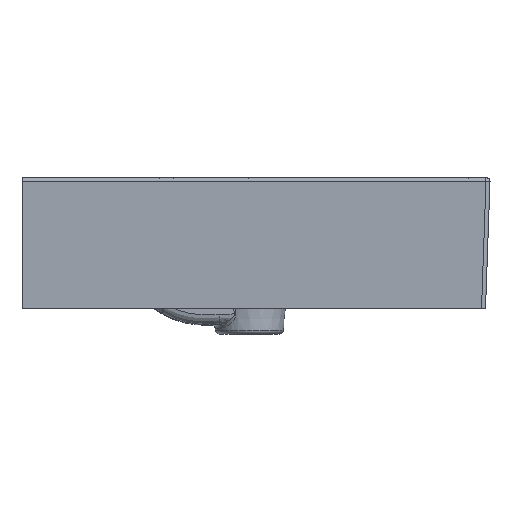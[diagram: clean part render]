
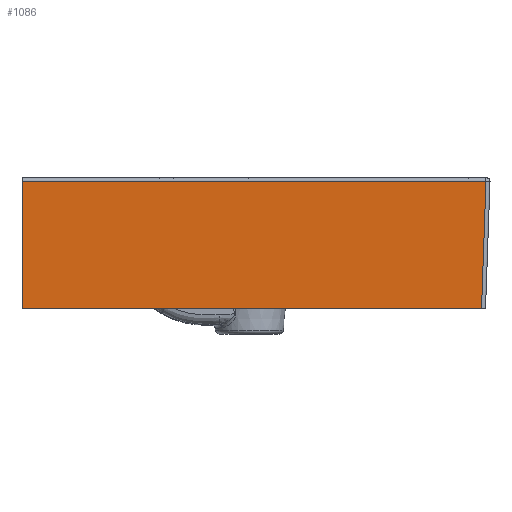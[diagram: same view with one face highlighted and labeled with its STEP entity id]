
A CAD part, left-side view. The second image highlights one B-rep face of the part: STEP entity #1086.
In plain terms, the highlighted planar face has unit normal (-1, 0, -0.026).
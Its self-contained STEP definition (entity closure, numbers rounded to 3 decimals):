
#124=PLANE('',#6542);
#544=LINE('',#45500,#793);
#554=LINE('',#47953,#804);
#583=LINE('',#49000,#833);
#584=LINE('',#49002,#834);
#585=LINE('',#49004,#835);
#586=LINE('',#49005,#836);
#793=VECTOR('',#7321,1.);
#804=VECTOR('',#7360,1.);
#833=VECTOR('',#7485,1.);
#834=VECTOR('',#7486,1.);
#835=VECTOR('',#7487,1.);
#836=VECTOR('',#7488,1.);
#1086=ADVANCED_FACE('',(#1583),#124,.T.);
#1583=FACE_OUTER_BOUND('',#1981,.T.);
#1981=EDGE_LOOP('',(#3395,#3396,#3397,#3398,#3399,#3400));
#3395=ORIENTED_EDGE('',*,*,#5543,.T.);
#3396=ORIENTED_EDGE('',*,*,#5611,.T.);
#3397=ORIENTED_EDGE('',*,*,#5612,.F.);
#3398=ORIENTED_EDGE('',*,*,#5613,.F.);
#3399=ORIENTED_EDGE('',*,*,#5503,.F.);
#3400=ORIENTED_EDGE('',*,*,#5614,.F.);
#4824=VERTEX_POINT('',#45497);
#4825=VERTEX_POINT('',#45499);
#4849=VERTEX_POINT('',#47952);
#4850=VERTEX_POINT('',#47954);
#4881=VERTEX_POINT('',#49001);
#4882=VERTEX_POINT('',#49003);
#5503=EDGE_CURVE('',#4825,#4824,#544,.T.);
#5543=EDGE_CURVE('',#4850,#4849,#554,.T.);
#5611=EDGE_CURVE('',#4849,#4881,#583,.T.);
#5612=EDGE_CURVE('',#4882,#4881,#584,.T.);
#5613=EDGE_CURVE('',#4824,#4882,#585,.T.);
#5614=EDGE_CURVE('',#4850,#4825,#586,.T.);
#6542=AXIS2_PLACEMENT_3D('',#49006,#7489,#7490);
#7321=DIRECTION('',(0.,1.,0.));
#7360=DIRECTION('',(-0.026,-0.035,0.999));
#7485=DIRECTION('',(0.,1.,0.));
#7486=DIRECTION('',(-0.026,0.,1.));
#7487=DIRECTION('',(0.,1.,0.));
#7488=DIRECTION('',(0.,1.,0.));
#7489=DIRECTION('',(-1.,0.,-0.026));
#7490=DIRECTION('',(-0.026,0.,1.));
#45497=CARTESIAN_POINT('',(-396.596,-24.,-130.));
#45499=CARTESIAN_POINT('',(-396.596,-436.399,-130.));
#45500=CARTESIAN_POINT('',(-396.596,-460.399,-130.));
#47952=CARTESIAN_POINT('',(-399.919,-460.833,-3.079));
#47953=CARTESIAN_POINT('',(-400.004,-460.945,0.139));
#47954=CARTESIAN_POINT('',(-396.596,-456.401,-130.));
#49000=CARTESIAN_POINT('',(-399.919,0.,-3.079));
#49001=CARTESIAN_POINT('',(-399.919,0.,-3.079));
#49002=CARTESIAN_POINT('',(-397.711,0.,-87.414));
#49003=CARTESIAN_POINT('',(-396.596,0.,-130.));
#49004=CARTESIAN_POINT('',(-396.596,-464.939,-130.));
#49005=CARTESIAN_POINT('',(-396.596,-460.399,-130.));
#49006=CARTESIAN_POINT('',(-400.,-464.939,0.));
